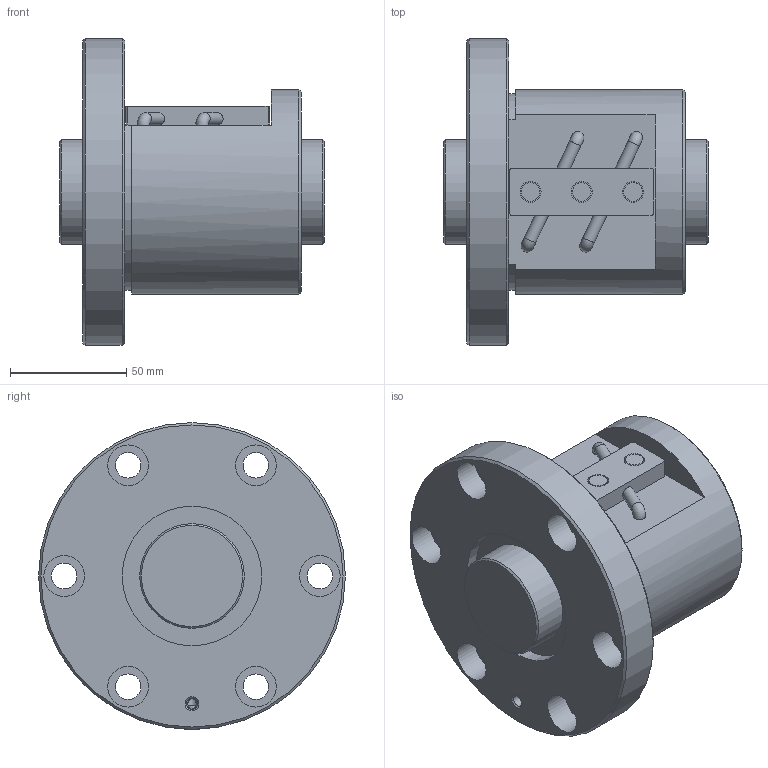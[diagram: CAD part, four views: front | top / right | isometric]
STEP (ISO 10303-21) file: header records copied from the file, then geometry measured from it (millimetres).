
FILE_DESCRIPTION(/* description */ ('STEP AP203'),/* implementation_level */ '2;1');
FILE_NAME(/* name */ 'BNF4510V-3RRG1+114LC0_000_rev',/* time_stamp */ '2024-08-06T08:54:45+02:00',/* author */ ('License CC BY-ND 4.0'),/* organization */ ('CADENAS'),/* preprocessor_version */ 'ST-DEVELOPER v19.3',/* originating_system */ 'PARTsolutions',/* authorisation */ ' ');
FILE_SCHEMA (('CONFIG_CONTROL_DESIGN'));
Length unit declared in the file: millimetre
Products named in the file (3): BNF4510V-3RRG1+114LC0_000_rev; BNF 4510-3RR000 Shaft; BNF 4510-3RR Nut
Assembly tree (2 placements, depth 2):
  BNF4510V-3RRG1+114LC0_000_rev
    BNF 4510-3RR000 Shaft
    BNF 4510-3RR Nut
Bounding box: 114 x 132 x 132 mm (x, y, z)
Volume: 671844.1 mm3; surface area: 93829.6 mm2
Topology: 2 solids, 2 shells, 77 faces, 168 edges, 110 vertices
Faces by surface type: cylinder 37, plane 29, cone 7, torus 4
Full cylindrical faces by diameter (mm): 4.5 x2, 4.917 x1, 5.331 x4, 8 x3, 9 x3, 11 x6, 17.5 x6, 45 x2, 60 x2, 88 x1, 132 x1
Entity records: 1943 total; most frequent: DIRECTION 348, CARTESIAN_POINT 324, ORIENTED_EDGE 220, AXIS2_PLACEMENT_3D 162, EDGE_LOOP 160, FACE_BOUND 160, EDGE_CURVE 110, VERTEX_POINT 96
